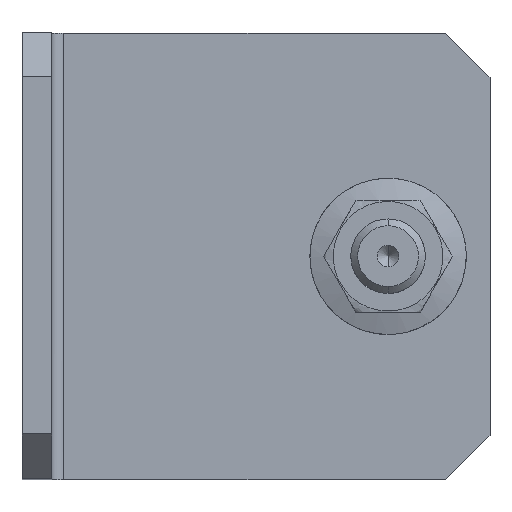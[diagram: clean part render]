
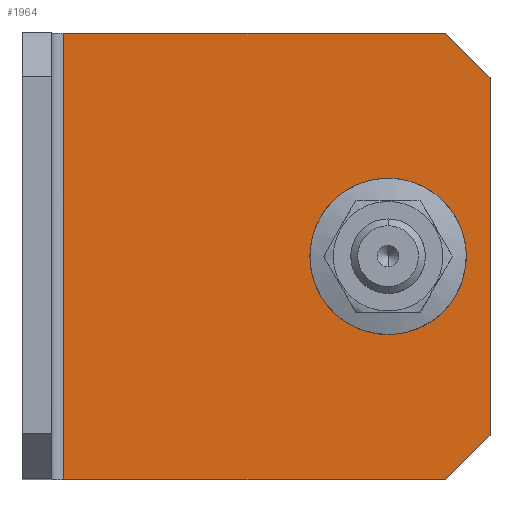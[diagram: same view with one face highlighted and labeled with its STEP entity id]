
A CAD part, top view. The second image highlights one B-rep face of the part: STEP entity #1964.
In plain terms, the highlighted free-form (B-spline) face has degree [1, 1] with [2, 2] control points.
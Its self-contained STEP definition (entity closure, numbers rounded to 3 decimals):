
#870=CARTESIAN_POINT('V59',(62.9,6.0,4.0));
#871=VERTEX_POINT('V59',#870);
#877=CARTESIAN_POINT('V57',(56.9,0.,4.0)
   );
#878=VERTEX_POINT('V57',#877);
#879=CARTESIAN_POINT('E99',(56.9,0.,4.0)
   );
#880=CARTESIAN_POINT('E99',(62.9,6.0,4.0));
#881=B_SPLINE_CURVE_WITH_KNOTS('E99',1,(#879,#880),.POLYLINE_FORM.,
   .F.,.U.,(2,2),(0.0,2.121),.UNSPECIFIED.);
#882=EDGE_CURVE('E99',#878,#871,#881,.T.);
#942=CARTESIAN_POINT('V51',(56.9,60.0,4.0));
#943=VERTEX_POINT('V51',#942);
#949=CARTESIAN_POINT('V49',(62.9,54.0,4.0));
#950=VERTEX_POINT('V49',#949);
#951=CARTESIAN_POINT('E79',(62.9,54.0,4.0));
#952=CARTESIAN_POINT('E79',(56.9,60.0,4.0));
#953=B_SPLINE_CURVE_WITH_KNOTS('E79',1,(#951,#952),.POLYLINE_FORM.,
   .F.,.U.,(2,2),(0.0,2.121),.UNSPECIFIED.);
#954=EDGE_CURVE('E79',#950,#943,#953,.T.);
#988=CARTESIAN_POINT('V30',(54.25,30.0,4.0));
#989=VERTEX_POINT('V30',#988);
#995=CARTESIAN_POINT('E33',(54.25,30.0,4.0));
#996=CARTESIAN_POINT('E33',(54.25,21.253,
   4.0));
#997=CARTESIAN_POINT('E33',(46.675,25.627,
   4.0));
#998=CARTESIAN_POINT('E33',(39.1,30.0,4.0));
#999=CARTESIAN_POINT('E33',(46.675,34.373,
   4.0));
#1000=CARTESIAN_POINT('E33',(54.25,38.747,
   4.0));
#1001=CARTESIAN_POINT('E33',(54.25,30.0,4.0));
#1009=(BOUNDED_CURVE()B_SPLINE_CURVE(2,(#995,#996,#997,#998,#999,
   #1000,#1001),.CIRCULAR_ARC.,.T.,.U.)B_SPLINE_CURVE_WITH_KNOTS((
   3,2,2,3),(0.0,0.333,0.667,1.0),
   .UNSPECIFIED.)CURVE()GEOMETRIC_REPRESENTATION_ITEM()
   RATIONAL_B_SPLINE_CURVE((1.0,0.5,1.0,
   0.5,1.0,0.5,1.0))REPRESENTATION_ITEM(
   'E33'));
#1010=EDGE_CURVE('E33',#989,#989,#1009,.T.);
#1897=CARTESIAN_POINT('V24',(5.6,60.0,
   4.));
#1898=VERTEX_POINT('V24',#1897);
#1913=CARTESIAN_POINT('V27',(5.6,0.,
   4.));
#1914=VERTEX_POINT('V27',#1913);
#1928=CARTESIAN_POINT('E29',(5.6,0.,4.0));
#1929=CARTESIAN_POINT('E29',(5.6,60.0,4.0));
#1930=QUASI_UNIFORM_CURVE('E29',1,(#1928,#1929),.POLYLINE_FORM.,.F.,
   .U.);
#1931=EDGE_CURVE('E29',#1914,#1898,#1930,.T.);
#1936=CARTESIAN_POINT('F7',(62.9,60.0,4.0));
#1937=CARTESIAN_POINT('F7',(5.6,60.0,4.0));
#1938=CARTESIAN_POINT('F7',(62.9,0.,4.0));
#1939=CARTESIAN_POINT('F7',(5.6,0.,4.0));
#1940=B_SPLINE_SURFACE_WITH_KNOTS('F7',1,1,((#1936,#1938),(#1937,
   #1939)),.PLANE_SURF.,.F.,.F.,.U.,(2,2),(2,2),(
   0.001,0.999),(0.,
   1.),.UNSPECIFIED.);
#1941=ORIENTED_EDGE('E99',*,*,#882,.T.);
#1942=CARTESIAN_POINT('E31',(62.9,6.0,4.0));
#1943=CARTESIAN_POINT('E31',(62.9,54.0,4.0));
#1944=B_SPLINE_CURVE_WITH_KNOTS('E31',1,(#1942,#1943),
   .POLYLINE_FORM.,.F.,.U.,(2,2),(0.1,
   0.9),.UNSPECIFIED.);
#1945=EDGE_CURVE('E31',#871,#950,#1944,.T.);
#1946=ORIENTED_EDGE('E31',*,*,#1945,.T.);
#1947=ORIENTED_EDGE('E79',*,*,#954,.T.);
#1948=CARTESIAN_POINT('E32',(56.9,60.0,4.0));
#1949=CARTESIAN_POINT('E32',(5.6,60.0,4.0));
#1950=B_SPLINE_CURVE_WITH_KNOTS('E32',1,(#1948,#1949),
   .POLYLINE_FORM.,.F.,.U.,(2,2),(0.105,1.0),
   .UNSPECIFIED.);
#1951=EDGE_CURVE('E32',#943,#1898,#1950,.T.);
#1952=ORIENTED_EDGE('E32',*,*,#1951,.T.);
#1953=ORIENTED_EDGE('F6',*,*,#1931,.F.);
#1954=CARTESIAN_POINT('E30',(5.6,0.,4.0));
#1955=CARTESIAN_POINT('E30',(56.9,0.,4.0)
   );
#1956=B_SPLINE_CURVE_WITH_KNOTS('E30',1,(#1954,#1955),
   .POLYLINE_FORM.,.F.,.U.,(2,2),(0.0,0.895),
   .UNSPECIFIED.);
#1957=EDGE_CURVE('E30',#1914,#878,#1956,.T.);
#1958=ORIENTED_EDGE('E30',*,*,#1957,.T.);
#1959=EDGE_LOOP('F7',(#1941,#1946,#1947,#1952,#1953,#1958));
#1960=FACE_OUTER_BOUND('F7',#1959,.T.);
#1961=ORIENTED_EDGE('E33',*,*,#1010,.T.);
#1962=EDGE_LOOP('F7',(#1961));
#1963=FACE_BOUND('F7',#1962,.T.);
#1964=ADVANCED_FACE('F7',(#1960,#1963),#1940,.T.);
